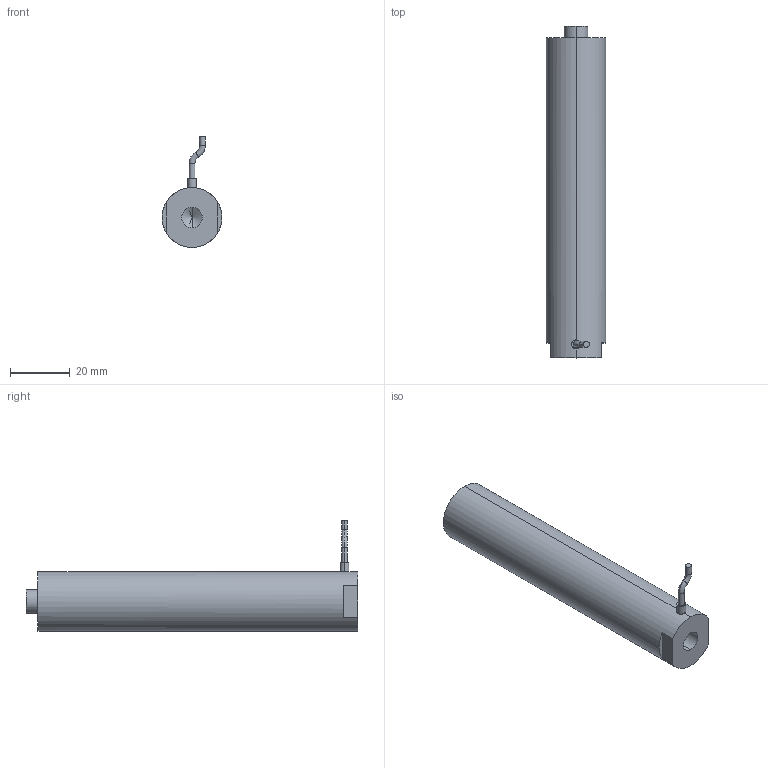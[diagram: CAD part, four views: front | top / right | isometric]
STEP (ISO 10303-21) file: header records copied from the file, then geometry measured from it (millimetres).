
FILE_DESCRIPTION (( 'STEP AP203' ), '1' );
FILE_NAME ('ﾆｽﾍｷﾊｽ100VS20.STEP', '2021-07-08T05:38:27', ( 'ﾎ｢ﾈ橆ﾃｻｧ' ), ( 'ﾎ｢ﾈ晥ｫﾋｾ' ), 'SwSTEP 2.0', 'SolidWorks 2016', '' );
FILE_SCHEMA (( 'CONFIG_CONTROL_DESIGN' ));
Length unit declared in the file: millimetre
Products named in the file (1): ƽͷʽ100VS20
Bounding box: 20 x 111 x 37.06 mm (x, y, z)
Volume: 33363.3 mm3; surface area: 7811.7 mm2
Topology: 1 solids, 2 shells, 932 faces, 2518 edges, 1673 vertices
Faces by surface type: bspline 517, plane 303, cylinder 106, torus 4, cone 2
Entity records: 45196 total; most frequent: CARTESIAN_POINT 26381, ORIENTED_EDGE 5024, EDGE_CURVE 2512, DIRECTION 1896, B_SPLINE_CURVE_WITH_KNOTS 1708, VERTEX_POINT 1671, EDGE_LOOP 1019, FACE_OUTER_BOUND 931
